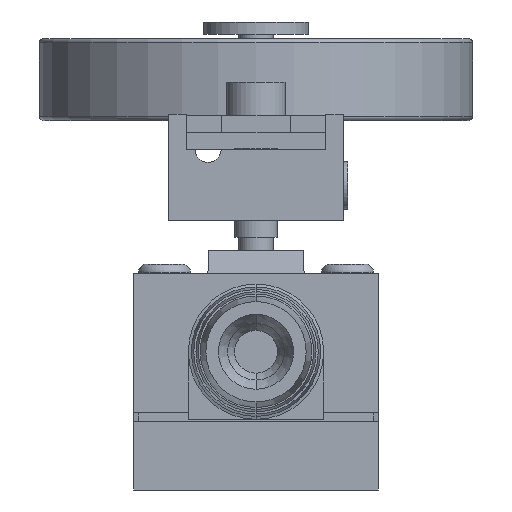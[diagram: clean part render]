
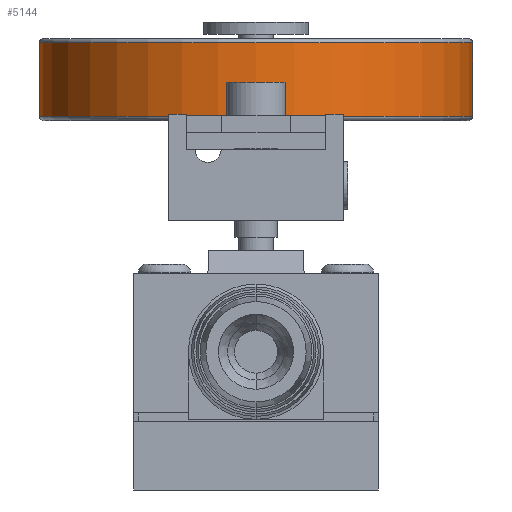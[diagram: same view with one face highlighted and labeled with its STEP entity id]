
A CAD part, front view. The second image highlights one B-rep face of the part: STEP entity #5144.
In plain terms, the highlighted cylindrical face has radius 24.85 mm (diameter 49.7 mm), a partial arc.
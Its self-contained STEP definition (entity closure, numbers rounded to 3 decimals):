
#398 = CARTESIAN_POINT ( 'NONE',  ( -24.85, 122.711, 51.25 ) ) ;
#413 = CARTESIAN_POINT ( 'NONE',  ( 24.85, 122.711, 51.25 ) ) ;
#417 = CARTESIAN_POINT ( 'NONE',  ( -24.85, 122.711, 42.85 ) ) ;
#418 = CARTESIAN_POINT ( 'NONE',  ( 24.85, 122.711, 42.85 ) ) ;
#1332 = EDGE_LOOP ( 'NONE', ( #7009, #7010, #7006, #7011 ) ) ;
#2587 = VECTOR ( 'NONE', #9778, 1000. ) ;
#2647 = VECTOR ( 'NONE', #9682, 1000. ) ;
#2889 = FACE_OUTER_BOUND ( 'NONE', #1332, .T. ) ;
#2982 = AXIS2_PLACEMENT_3D ( 'NONE', #11864, #11865, #11866 ) ;
#2984 = CYLINDRICAL_SURFACE ( 'NONE', #2982, 24.85 ) ;
#3235 = AXIS2_PLACEMENT_3D ( 'NONE', #12641, #12642, #12643 ) ;
#3261 = AXIS2_PLACEMENT_3D ( 'NONE', #12635, #12639, #12640 ) ;
#4554 = EDGE_CURVE ( 'NONE', #7501, #7506, #9680, .T. ) ;
#4586 = EDGE_CURVE ( 'NONE', #7486, #7505, #9776, .T. ) ;
#5144 = ADVANCED_FACE ( 'NONE', ( #2889 ), #2984, .T. ) ;
#5382 = EDGE_CURVE ( 'NONE', #7501, #7486, #5720, .T. ) ;
#5383 = EDGE_CURVE ( 'NONE', #7505, #7506, #5721, .T. ) ;
#5720 = CIRCLE ( 'NONE', #3261, 24.85 ) ;
#5721 = CIRCLE ( 'NONE', #3235, 24.85 ) ;
#7006 = ORIENTED_EDGE ( 'NONE', *, *, #4586, .T. ) ;
#7009 = ORIENTED_EDGE ( 'NONE', *, *, #4554, .F. ) ;
#7010 = ORIENTED_EDGE ( 'NONE', *, *, #5382, .T. ) ;
#7011 = ORIENTED_EDGE ( 'NONE', *, *, #5383, .T. ) ;
#7486 = VERTEX_POINT ( 'NONE', #398 ) ;
#7501 = VERTEX_POINT ( 'NONE', #413 ) ;
#7505 = VERTEX_POINT ( 'NONE', #417 ) ;
#7506 = VERTEX_POINT ( 'NONE', #418 ) ;
#9680 = LINE ( 'NONE', #9681, #2647 ) ;
#9681 = CARTESIAN_POINT ( 'NONE',  ( 24.85, 122.711, 38.55 ) ) ;
#9682 = DIRECTION ( 'NONE',  ( 0., 0., -1. ) ) ;
#9776 = LINE ( 'NONE', #9777, #2587 ) ;
#9777 = CARTESIAN_POINT ( 'NONE',  ( -24.85, 122.711, 38.55 ) ) ;
#9778 = DIRECTION ( 'NONE',  ( 0., 0., -1. ) ) ;
#11864 = CARTESIAN_POINT ( 'NONE',  ( 0., 122.711, 38.55 ) ) ;
#11865 = DIRECTION ( 'NONE',  ( 0., 0., -1. ) ) ;
#11866 = DIRECTION ( 'NONE',  ( -1., 0., 0. ) ) ;
#12635 = CARTESIAN_POINT ( 'NONE',  ( 0., 122.711, 51.25 ) ) ;
#12639 = DIRECTION ( 'NONE',  ( 0., 0., -1. ) ) ;
#12640 = DIRECTION ( 'NONE',  ( 1., 0., 0. ) ) ;
#12641 = CARTESIAN_POINT ( 'NONE',  ( 0., 122.711, 42.85 ) ) ;
#12642 = DIRECTION ( 'NONE',  ( 0., 0., 1. ) ) ;
#12643 = DIRECTION ( 'NONE',  ( -1., 0., 0. ) ) ;
